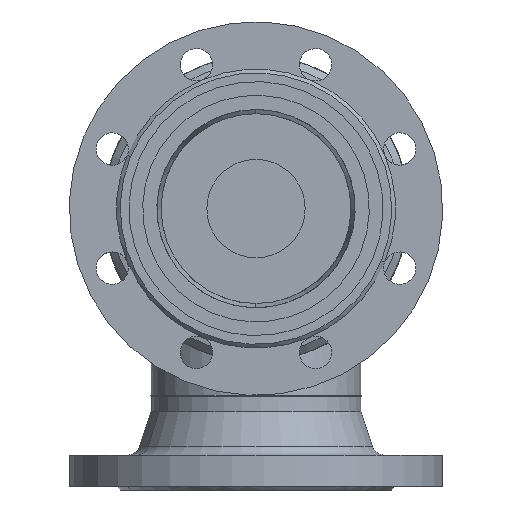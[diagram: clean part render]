
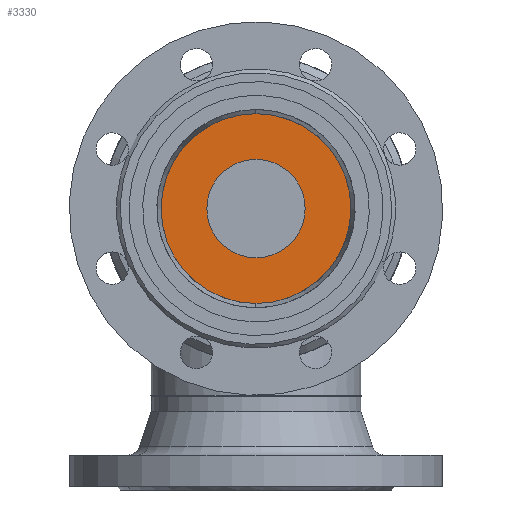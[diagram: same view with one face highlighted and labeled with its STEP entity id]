
A CAD part, front view. The second image highlights one B-rep face of the part: STEP entity #3330.
In plain terms, the highlighted planar face has unit normal (0, -1, 0) as drawn and (0, 0, 1) by its records, which use the part's own axes.
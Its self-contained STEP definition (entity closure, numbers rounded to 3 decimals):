
#766 = CIRCLE ( 'NONE', #767, 39.5 ) ;
#767 = AXIS2_PLACEMENT_3D ( 'NONE', #768, #770, #771 ) ;
#768 = CARTESIAN_POINT ( 'NONE',  ( 0., 0., 16. ) ) ;
#770 = DIRECTION ( 'NONE',  ( 0., 0., 1. ) ) ;
#771 = DIRECTION ( 'NONE',  ( 1., 0., 0. ) ) ;
#1924 = FACE_OUTER_BOUND ( 'NONE', #6843, .T. ) ;
#1925 = FACE_BOUND ( 'NONE', #3650, .T. ) ;
#1926 = PLANE ( 'NONE',  #1927 ) ;
#1927 = AXIS2_PLACEMENT_3D ( 'NONE', #1928, #1929, #1930 ) ;
#1928 = CARTESIAN_POINT ( 'NONE',  ( 0., 0., 16. ) ) ;
#1929 = DIRECTION ( 'NONE',  ( 0., 0., 1. ) ) ;
#1930 = DIRECTION ( 'NONE',  ( 1., 0., 0. ) ) ;
#2769 = ORIENTED_EDGE ( 'NONE', *, *, #7659, .F. ) ;
#2861 = EDGE_CURVE ( 'NONE', #8831, #9049, #7962, .T. ) ;
#2871 = EDGE_CURVE ( 'NONE', #3391, #5678, #8111, .T. ) ;
#2894 = ORIENTED_EDGE ( 'NONE', *, *, #2871, .F. ) ;
#2901 = ORIENTED_EDGE ( 'NONE', *, *, #2861, .T. ) ;
#3330 = ADVANCED_FACE ( 'NONE', ( #1924, #1925 ), #1926, .T. ) ;
#3391 = VERTEX_POINT ( 'NONE', #7598 ) ;
#3650 = EDGE_LOOP ( 'NONE', ( #2894, #2769 ) ) ;
#3666 = ORIENTED_EDGE ( 'NONE', *, *, #9446, .T. ) ;
#5678 = VERTEX_POINT ( 'NONE', #9217 ) ;
#6843 = EDGE_LOOP ( 'NONE', ( #2901, #3666 ) ) ;
#7063 = CARTESIAN_POINT ( 'NONE',  ( -85., 0., 16. ) ) ;
#7290 = CARTESIAN_POINT ( 'NONE',  ( 85., 0., 16. ) ) ;
#7598 = CARTESIAN_POINT ( 'NONE',  ( -39.5, 0., 16. ) ) ;
#7659 = EDGE_CURVE ( 'NONE', #5678, #3391, #766, .T. ) ;
#7924 = CIRCLE ( 'NONE', #7927, 85. ) ;
#7927 = AXIS2_PLACEMENT_3D ( 'NONE', #7928, #7929, #7930 ) ;
#7928 = CARTESIAN_POINT ( 'NONE',  ( 0., 0., 16. ) ) ;
#7929 = DIRECTION ( 'NONE',  ( 0., 0., 1. ) ) ;
#7930 = DIRECTION ( 'NONE',  ( 1., 0., 0. ) ) ;
#7962 = CIRCLE ( 'NONE', #7963, 85. ) ;
#7963 = AXIS2_PLACEMENT_3D ( 'NONE', #7964, #7965, #7966 ) ;
#7964 = CARTESIAN_POINT ( 'NONE',  ( 0., 0., 16. ) ) ;
#7965 = DIRECTION ( 'NONE',  ( 0., 0., 1. ) ) ;
#7966 = DIRECTION ( 'NONE',  ( 1., 0., 0. ) ) ;
#8111 = CIRCLE ( 'NONE', #8112, 39.5 ) ;
#8112 = AXIS2_PLACEMENT_3D ( 'NONE', #8113, #8114, #8115 ) ;
#8113 = CARTESIAN_POINT ( 'NONE',  ( 0., 0., 16. ) ) ;
#8114 = DIRECTION ( 'NONE',  ( 0., 0., 1. ) ) ;
#8115 = DIRECTION ( 'NONE',  ( 1., 0., 0. ) ) ;
#8831 = VERTEX_POINT ( 'NONE', #7063 ) ;
#9049 = VERTEX_POINT ( 'NONE', #7290 ) ;
#9217 = CARTESIAN_POINT ( 'NONE',  ( 39.5, 0., 16. ) ) ;
#9446 = EDGE_CURVE ( 'NONE', #9049, #8831, #7924, .T. ) ;
